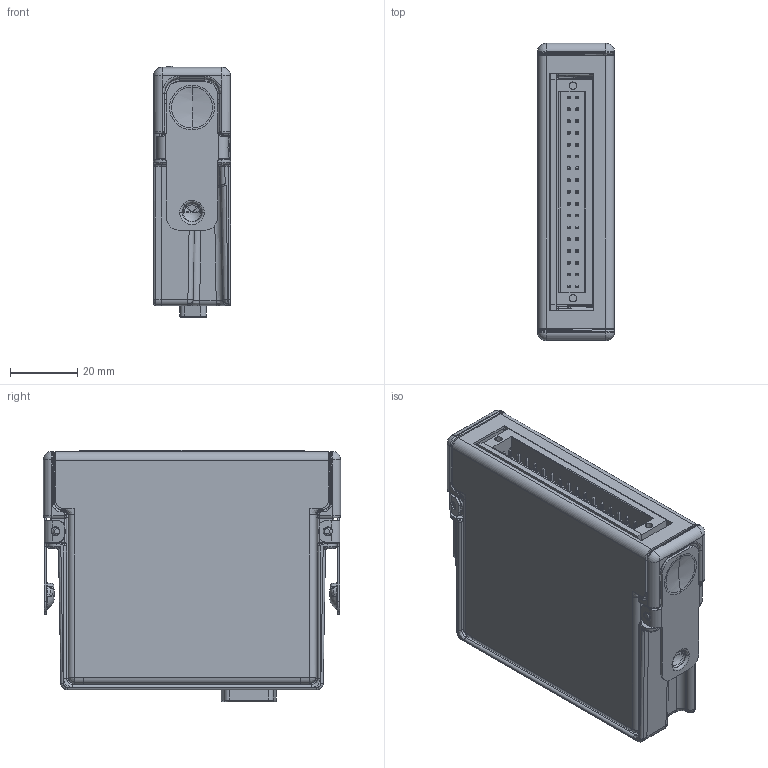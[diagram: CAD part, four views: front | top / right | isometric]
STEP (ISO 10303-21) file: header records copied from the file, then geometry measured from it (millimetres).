
FILE_DESCRIPTION((''),'2;1');
FILE_NAME('CART_CRIO_36_POS_WEID_LVL6','2007-01-24T',('chrisj'),(''),'PRO/ENGINEER BY PARAMETRIC TECHNOLOGY CORPORATION, 2006080','PRO/ENGINEER BY PARAMETRIC TECHNOLOGY CORPORATION, 2006080','');
FILE_SCHEMA(('AUTOMOTIVE_DESIGN_CC2 { 1 2 10303 214 -1 1 5 2 }'));
Products named in the file (1): CART_CRIO_36_POS_WEID_LVL6
Bounding box: 22.86 x 88.11 x 74.57 mm (x, y, z)
Volume: 52408.6 mm3; surface area: 55995.5 mm2
Topology: 13 solids, 13 shells, 2316 faces, 5899 edges, 3644 vertices
Faces by surface type: plane 1070, cylinder 724, bspline 365, torus 60, cone 52, sphere 39, extrusion 6
Entity records: 89311 total; most frequent: CARTESIAN_POINT 37162, ORIENTED_EDGE 11654, DIRECTION 9457, EDGE_CURVE 5827, VERTEX_POINT 3682, VECTOR 3183, LINE 3177, AXIS2_PLACEMENT_3D 3137
